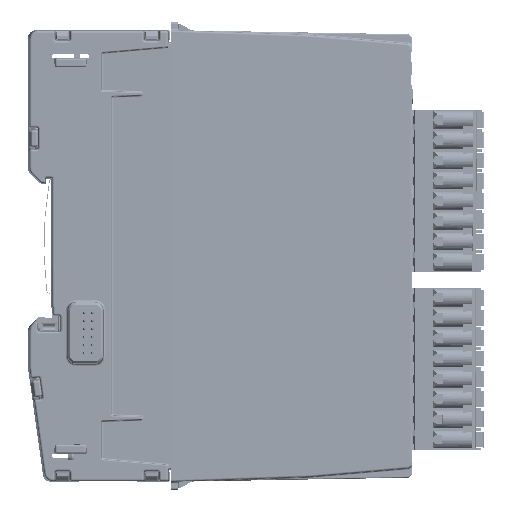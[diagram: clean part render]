
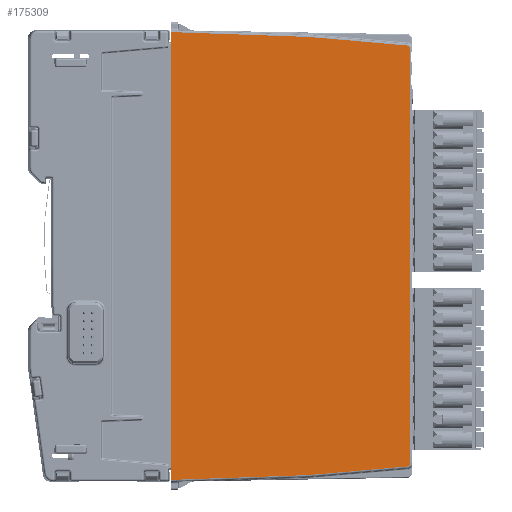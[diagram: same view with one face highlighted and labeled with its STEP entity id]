
A CAD part, left-side view. The second image highlights one B-rep face of the part: STEP entity #175309.
In plain terms, the highlighted planar face has unit normal (-1, -0.018, 0).
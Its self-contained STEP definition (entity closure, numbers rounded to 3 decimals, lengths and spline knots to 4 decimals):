
#15334=FACE_OUTER_BOUND('',#24799,.T.);
#24799=EDGE_LOOP('',(#137515,#137516,#137517,#137518,#137519,#137520,#137521,
#137522,#137523,#137524));
#39813=LINE('',#290060,#57317);
#39815=LINE('',#290069,#57319);
#39816=LINE('',#290071,#57320);
#39817=LINE('',#290075,#57321);
#39818=LINE('',#290078,#57322);
#39819=LINE('',#290080,#57323);
#39820=LINE('',#290082,#57324);
#39821=LINE('',#290083,#57325);
#57317=VECTOR('',#222731,39.3701);
#57319=VECTOR('',#222739,39.3701);
#57320=VECTOR('',#222740,39.3701);
#57321=VECTOR('',#222743,39.3701);
#57322=VECTOR('',#222746,39.3701);
#57323=VECTOR('',#222747,39.3701);
#57324=VECTOR('',#222748,39.3701);
#57325=VECTOR('',#222749,39.3701);
#64720=ELLIPSE('',#187825,0.0315,0.0315);
#64721=ELLIPSE('',#187826,0.0315,0.0315);
#75888=VERTEX_POINT('',#290058);
#75889=VERTEX_POINT('',#290059);
#75892=VERTEX_POINT('',#290067);
#75893=VERTEX_POINT('',#290068);
#75894=VERTEX_POINT('',#290070);
#75895=VERTEX_POINT('',#290072);
#75896=VERTEX_POINT('',#290074);
#75897=VERTEX_POINT('',#290076);
#75898=VERTEX_POINT('',#290079);
#75899=VERTEX_POINT('',#290081);
#97410=EDGE_CURVE('',#75888,#75889,#39813,.T.);
#97414=EDGE_CURVE('',#75892,#75893,#39815,.T.);
#97415=EDGE_CURVE('',#75893,#75894,#39816,.T.);
#97416=EDGE_CURVE('',#75894,#75895,#64720,.T.);
#97417=EDGE_CURVE('',#75895,#75896,#39817,.T.);
#97418=EDGE_CURVE('',#75896,#75897,#64721,.T.);
#97419=EDGE_CURVE('',#75897,#75888,#39818,.T.);
#97420=EDGE_CURVE('',#75889,#75898,#39819,.T.);
#97421=EDGE_CURVE('',#75899,#75898,#39820,.T.);
#97422=EDGE_CURVE('',#75899,#75892,#39821,.T.);
#137515=ORIENTED_EDGE('',*,*,#97414,.T.);
#137516=ORIENTED_EDGE('',*,*,#97415,.T.);
#137517=ORIENTED_EDGE('',*,*,#97416,.T.);
#137518=ORIENTED_EDGE('',*,*,#97417,.T.);
#137519=ORIENTED_EDGE('',*,*,#97418,.T.);
#137520=ORIENTED_EDGE('',*,*,#97419,.T.);
#137521=ORIENTED_EDGE('',*,*,#97410,.T.);
#137522=ORIENTED_EDGE('',*,*,#97420,.T.);
#137523=ORIENTED_EDGE('',*,*,#97421,.F.);
#137524=ORIENTED_EDGE('',*,*,#97422,.T.);
#158710=PLANE('',#187824);
#175309=ADVANCED_FACE('',(#15334),#158710,.T.);
#187824=AXIS2_PLACEMENT_3D('',#290066,#222737,#222738);
#187825=AXIS2_PLACEMENT_3D('',#290073,#222741,#222742);
#187826=AXIS2_PLACEMENT_3D('',#290077,#222744,#222745);
#222731=DIRECTION('',(-0.017,0.999,0.035));
#222737=DIRECTION('center_axis',(-1.,-0.017,
0.));
#222738=DIRECTION('ref_axis',(-0.017,1.,0.));
#222739=DIRECTION('',(0.017,-0.999,0.035));
#222740=DIRECTION('',(0.017,-0.996,0.087));
#222741=DIRECTION('center_axis',(-1.,-0.017,
0.));
#222742=DIRECTION('ref_axis',(0.017,-1.,0.));
#222743=DIRECTION('',(0.,0.,1.));
#222744=DIRECTION('center_axis',(-1.,-0.017,
0.));
#222745=DIRECTION('ref_axis',(0.017,-1.,0.));
#222746=DIRECTION('',(-0.017,0.996,0.087));
#222747=DIRECTION('',(0.,0.,-1.));
#222748=DIRECTION('',(0.,0.,1.));
#222749=DIRECTION('',(0.,0.,-1.));
#290058=CARTESIAN_POINT('',(0.0007,-2.2205,0.0616));
#290059=CARTESIAN_POINT('',(-0.0227,-0.8827,0.1083));
#290060=CARTESIAN_POINT('',(-0.0282,-0.5654,0.1194));
#290066=CARTESIAN_POINT('Origin',(-0.0296,-0.489,
-2.0669));
#290067=CARTESIAN_POINT('',(-0.0227,-0.8827,-4.2421));
#290068=CARTESIAN_POINT('',(0.0007,-2.2205,-4.1954));
#290069=CARTESIAN_POINT('',(-0.0282,-0.5654,-4.2532));
#290070=CARTESIAN_POINT('',(0.0174,-3.1772,-4.1117));
#290071=CARTESIAN_POINT('',(-0.0261,-0.6869,-4.3296));
#290072=CARTESIAN_POINT('',(0.0179,-3.2059,-4.0803));
#290073=CARTESIAN_POINT('Origin',(0.0173,-3.1744,
-4.0803));
#290074=CARTESIAN_POINT('',(0.0179,-3.2059,-0.0535));
#290075=CARTESIAN_POINT('',(0.0179,-3.2059,-0.0535));
#290076=CARTESIAN_POINT('',(0.0174,-3.1772,-0.0221));
#290077=CARTESIAN_POINT('Origin',(0.0173,-3.1744,
-0.0535));
#290078=CARTESIAN_POINT('',(-0.0261,-0.6869,0.1957));
#290079=CARTESIAN_POINT('',(-0.0227,-0.8827,-0.0312));
#290080=CARTESIAN_POINT('',(-0.0227,-0.8827,0.128));
#290081=CARTESIAN_POINT('',(-0.0227,-0.8827,-4.1027));
#290082=CARTESIAN_POINT('',(-0.0227,-0.8827,-7.5932));
#290083=CARTESIAN_POINT('',(-0.0227,-0.8827,0.128));
